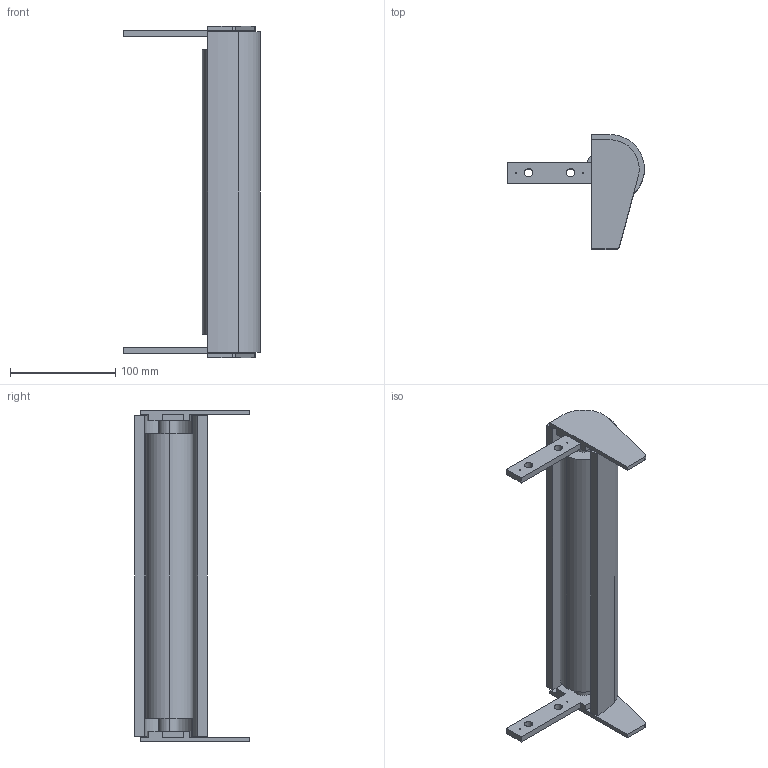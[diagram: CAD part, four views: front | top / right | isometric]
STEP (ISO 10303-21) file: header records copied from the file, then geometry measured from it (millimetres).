
FILE_DESCRIPTION (( 'STEP AP214' ), '1' );
FILE_NAME ('FS-160-MTS-100.ALU omloop 320.STEP', '2017-02-08T12:09:24', ( '' ), ( '' ), 'SwSTEP 2.0', 'SolidWorks 2016', '' );
FILE_SCHEMA (( 'AUTOMOTIVE_DESIGN' ));
Length unit declared in the file: millimetre
Products named in the file (1): FS-160-MTS-100.ALU omloop 320
Bounding box: 130.3 x 109 x 316 mm (x, y, z)
Volume: 838620 mm3; surface area: 153106 mm2
Topology: 2 solids, 2 shells, 70 faces, 186 edges, 124 vertices
Faces by surface type: cylinder 36, plane 34
Entity records: 2277 total; most frequent: DIRECTION 400, CARTESIAN_POINT 381, ORIENTED_EDGE 372, EDGE_CURVE 186, AXIS2_PLACEMENT_3D 143, VERTEX_POINT 124, LINE 114, VECTOR 114
